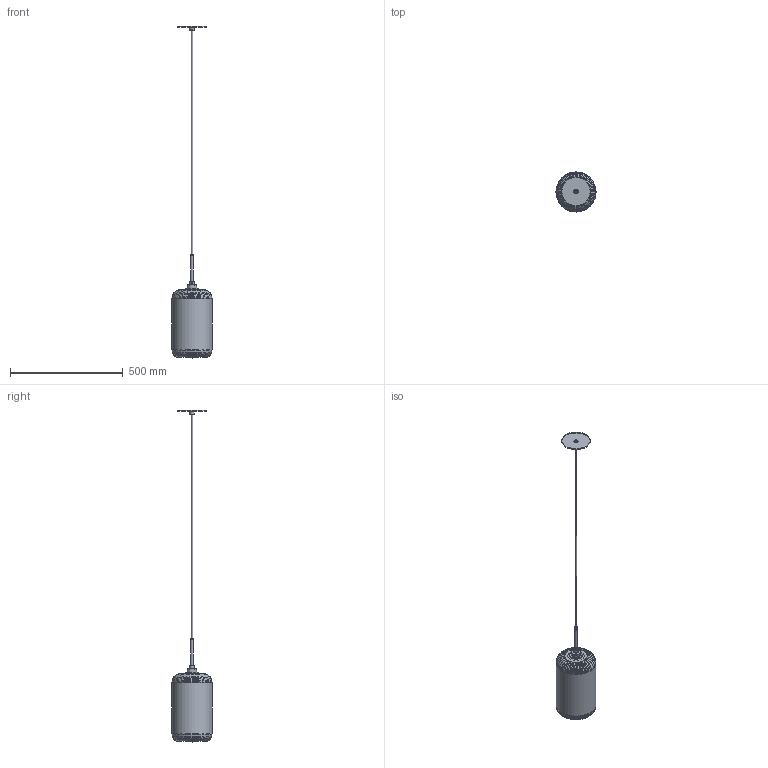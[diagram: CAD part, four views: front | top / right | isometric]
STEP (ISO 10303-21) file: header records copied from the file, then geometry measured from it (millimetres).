
FILE_DESCRIPTION(/* description */ (''),/* implementation_level */ '2;1');
FILE_NAME(/* name */ 'C:/Users/zach/Niche/Product Development - Documents/CAD Models/Pendants/Pod/CAD Models/Glass - Luxe Hardware/Niche - Pod Pendant.step',/* time_stamp */ '2022-07-27T15:34:26-04:00',/* author */ (''),/* organization */ (''),/* preprocessor_version */ 'ST-DEVELOPER v19',/* originating_system */ 'Autodesk Translation Framework v11.7.0.108',/* authorisation */ '');
FILE_SCHEMA (('AUTOMOTIVE_DESIGN { 1 0 10303 214 3 1 1 }'));
Length unit declared in the file: inch
Products named in the file (1): Pod
Bounding box: 177.8 x 177.8 x 1474.72 mm (x, y, z)
Volume: 860878.1 mm3; surface area: 510722.1 mm2
Topology: 11 solids, 11 shells, 265 faces, 702 edges, 463 vertices
Faces by surface type: cylinder 129, plane 50, cone 41, torus 35, bspline 9, sphere 1
Full cylindrical faces by diameter (mm): 4.529 x1, 5.08 x1, 6.096 x1, 6.35 x1, 6.5 x1, 7.62 x1, 7.744 x7, 8.036 x15, 8.852 x1, 8.884 x8, 9.035 x1, 9.146 x11, 10.16 x1, 12.7 x2, 19.05 x1, 19.2 x1, 25.4 x1, 26.022 x1, 34.97 x1, 35.052 x9, 37.85 x8, 39 x1, 39.35 x1, 41.035 x1, 41.2 x1, 41.884 x1, 44 x1, 46.701 x1, 55 x2, 74.999 x1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
Entity records: 16756 total; most frequent: CARTESIAN_POINT 10290, ORIENTED_EDGE 1402, DIRECTION 1265, EDGE_CURVE 701, AXIS2_PLACEMENT_3D 525, VERTEX_POINT 463, EDGE_LOOP 294, CIRCLE 268
